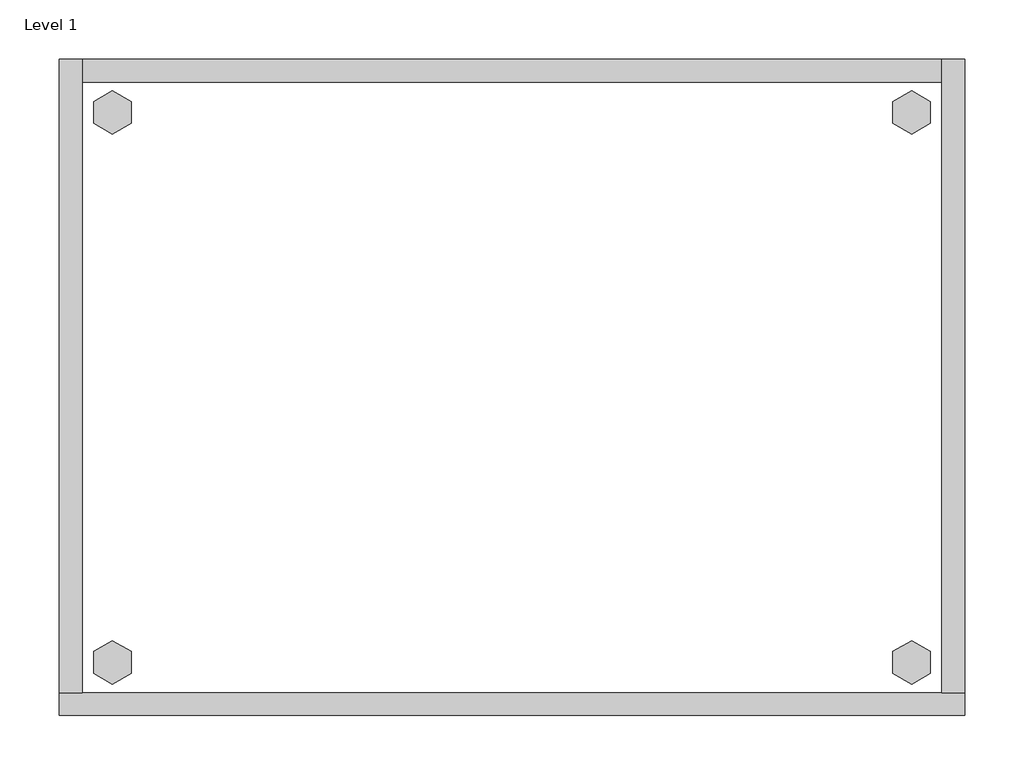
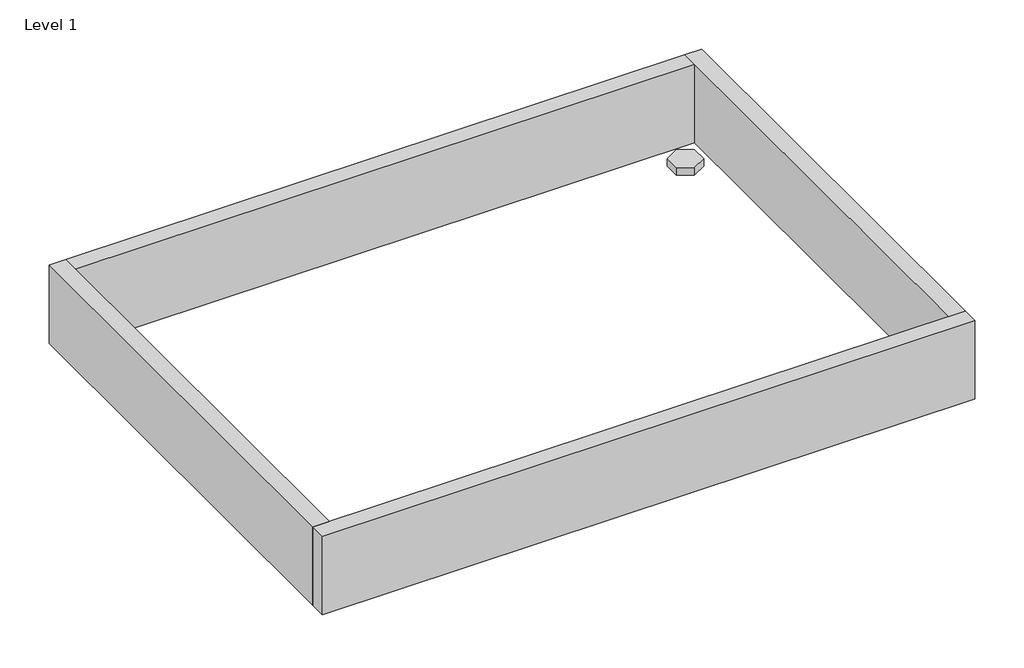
# One storey, incomplete: 1 furniture element.
"""IFC4 building model written with IfcOpenShell, lengths in millimetres."""

import ifcopenshell
import ifcopenshell.guid

model = None  # the IFC model being written
_history = None  # IfcOwnerHistory: only IFC2X3 demands one
_inside = {}  # id of a spatial element -> (the spatial element, [elements in it])
_under = {}  # id of a project, library or spatial element -> (it, [spatial elements below it])
_declared = {}  # id of a project -> (the project, [libraries it declares])
_typed = {}  # id of a type object -> (the type object, [elements of that type])
_made_of = {}  # id of a material, layer set ... -> (it, [elements and type objects made of it])


def new_model(schema):
    """Start an empty IFC model of exactly this schema.

    Asked for "IFC4X3", IfcOpenShell would pick the latest addendum, in which some entities
    have other attributes; the version numbers below select the first issue.
    IFC2X3 requires an IfcOwnerHistory on every rooted entity: one is made here for all.
    """
    global model, _history
    if schema == "IFC4X3":
        model = ifcopenshell.file(schema_version=(4, 3, 0, 0))
    else:
        model = ifcopenshell.file(schema=schema)
    _inside.clear()
    _under.clear()
    _declared.clear()
    _typed.clear()
    _made_of.clear()
    _history = None
    if model.schema == "IFC2X3":
        org = make("IfcOrganization", Name="unknown")
        user = make(
            "IfcPersonAndOrganization",
            ThePerson=make("IfcPerson", FamilyName="unknown"),
            TheOrganization=org,
        )
        app = make(
            "IfcApplication",
            ApplicationDeveloper=org,
            Version="unknown",
            ApplicationFullName="unknown",
            ApplicationIdentifier="unknown",
        )
        _history = make(
            "IfcOwnerHistory",
            OwningUser=user,
            OwningApplication=app,
            ChangeAction="ADDED",
            CreationDate=0,
        )
    return model


def make(cls, **values):
    """One entity of the class cls with the attributes given. An attribute that is None is left unset."""
    return model.create_entity(
        cls, **{name: value for name, value in values.items() if value is not None}
    )


def rooted(cls, **values):
    """An entity with a GlobalId (a new one), such as an element, a storey or a relation."""
    return make(cls, GlobalId=ifcopenshell.guid.new(), OwnerHistory=_history, **values)


def si_unit(unit_type, name, prefix=None):
    """IfcSIUnit, for example si_unit("LENGTHUNIT", "METRE", prefix="MILLI")."""
    return make("IfcSIUnit", UnitType=unit_type, Prefix=prefix, Name=name)


def assignment(units):
    """IfcUnitAssignment: the units of a project."""
    return None if units is None else make("IfcUnitAssignment", Units=units)


def point(xyz):
    """IfcCartesianPoint."""
    return None if xyz is None else make("IfcCartesianPoint", Coordinates=xyz)


def direction(xyz):
    """IfcDirection."""
    return None if xyz is None else make("IfcDirection", DirectionRatios=xyz)


def frame(location, z_axis=None, x_axis=None):
    """IfcAxis2Placement3D, a coordinate frame: its origin and axes. An axis left out is left unset."""
    return make(
        "IfcAxis2Placement3D",
        Location=point(location),
        Axis=direction(z_axis),
        RefDirection=direction(x_axis),
    )


def origin():
    """The frame at (0, 0, 0) with its axes left unset."""
    return frame((0.0, 0.0, 0.0))


def origin_with_axes():
    """The frame at (0, 0, 0) with the z axis (0, 0, 1) and the x axis (1, 0, 0) written out."""
    return frame((0.0, 0.0, 0.0), z_axis=(0.0, 0.0, 1.0), x_axis=(1.0, 0.0, 0.0))


def place(relative_to, where):
    """IfcLocalPlacement: puts the frame where relative to a parent placement (None: the world)."""
    return make(
        "IfcLocalPlacement", PlacementRelTo=relative_to, RelativePlacement=where
    )


def context(
    kind, dimensions, precision=None, world=None, true_north=None, identifier=None
):
    """IfcGeometricRepresentationContext, for example the 3D "Model" context."""
    return make(
        "IfcGeometricRepresentationContext",
        ContextIdentifier=identifier,
        ContextType=kind,
        CoordinateSpaceDimension=dimensions,
        Precision=precision,
        WorldCoordinateSystem=world,
        TrueNorth=true_north,
    )


def project(units=None, contexts=None):
    """IfcProject with its units and contexts."""
    return rooted(
        "IfcProject",
        Name="project",
        RepresentationContexts=contexts,
        UnitsInContext=assignment(units),
    )


def spatial(cls, under=None, at=None, **own):
    """A site, building, storey or space (cls), placed at a placement, below another one or the project."""
    s = rooted(cls, ObjectPlacement=at, **own)
    if under is not None:
        _under.setdefault(under.id(), (under, []))[1].append(s)
    return s


def polyline(points):
    """IfcPolyline through the points."""
    return make("IfcPolyline", Points=[point(p) for p in points])


def outline(outer, holes=None, kind="AREA"):
    """IfcArbitraryClosedProfileDef: a profile drawn as a closed curve; with holes, ...WithVoids."""
    if holes is None:
        return make("IfcArbitraryClosedProfileDef", ProfileType=kind, OuterCurve=outer)
    return make(
        "IfcArbitraryProfileDefWithVoids",
        ProfileType=kind,
        OuterCurve=outer,
        InnerCurves=holes,
    )


def extrude(swept, where, along, depth):
    """IfcExtrudedAreaSolid: the profile swept, set in the frame where, extruded along a direction by depth."""
    return make(
        "IfcExtrudedAreaSolid",
        SweptArea=swept,
        Position=where,
        ExtrudedDirection=direction(along),
        Depth=depth,
    )


def shape(context_of_items, identifier, shape_type, items):
    """IfcShapeRepresentation: the items that make up one representation, for example the "Body"."""
    return make(
        "IfcShapeRepresentation",
        ContextOfItems=context_of_items,
        RepresentationIdentifier=identifier,
        RepresentationType=shape_type,
        Items=items,
    )


def source(mapping_origin, context_of_items, identifier, shape_type, items):
    """IfcRepresentationMap: a shape defined once, which mapped items show again and again."""
    return make(
        "IfcRepresentationMap",
        MappingOrigin=mapping_origin,
        MappedRepresentation=shape(context_of_items, identifier, shape_type, items),
    )


def transform(
    local_origin,
    x_axis=None,
    y_axis=None,
    z_axis=None,
    scale=None,
    scale2=None,
    scale3=None,
    uniform=True,
):
    """IfcCartesianTransformationOperator3D, or its non-uniform kind. x_axis, y_axis, z_axis: its Axis1, 2, 3."""
    if uniform:
        return make(
            "IfcCartesianTransformationOperator3D",
            Axis1=direction(x_axis),
            Axis2=direction(y_axis),
            LocalOrigin=point(local_origin),
            Scale=scale,
            Axis3=direction(z_axis),
        )
    return make(
        "IfcCartesianTransformationOperator3DnonUniform",
        Axis1=direction(x_axis),
        Axis2=direction(y_axis),
        LocalOrigin=point(local_origin),
        Scale=scale,
        Axis3=direction(z_axis),
        Scale2=scale2,
        Scale3=scale3,
    )


def mapped(mapping_source, mapping_target):
    """IfcMappedItem: shows the shape of a source again, moved by a transform."""
    return make(
        "IfcMappedItem", MappingSource=mapping_source, MappingTarget=mapping_target
    )


def made_of(thing, what):
    """Note that an element or type object is made of a material, layer set ...; save() writes the relation."""
    if what is not None:
        _made_of.setdefault(what.id(), (what, []))[1].append(thing)
    return thing


def element(
    cls,
    number,
    at=None,
    inside=None,
    cuts=None,
    type_object=None,
    material=None,
    context=None,
    identifier="Body",
    shape_type=None,
    held_by="IfcProductDefinitionShape",
    body=None,
    shapes=None,
    **own,
):
    """One element of the class cls, such as IfcWall. Its Tag is "e" and its number.

    at: its placement. inside: the storey or other place that contains it. cuts: it is an
    opening in that element (IfcRelVoidsElement). A single representation is given by context,
    identifier, shape_type and body (its items); several are given by shapes. held_by: the class
    of the entity that holds the representations. save() writes the other relations.
    """
    e = rooted(cls, Tag="e%d" % number, ObjectPlacement=at, **own)
    if body is not None:
        shapes = [shape(context, identifier, shape_type, body)]
    if shapes is not None:
        e.Representation = make(held_by, Representations=shapes)
    if inside is not None:
        _inside.setdefault(inside.id(), (inside, []))[1].append(e)
    if cuts is not None:
        rooted(
            "IfcRelVoidsElement", RelatingBuildingElement=cuts, RelatedOpeningElement=e
        )
    if type_object is not None:
        _typed.setdefault(type_object.id(), (type_object, []))[1].append(e)
    return made_of(e, material)


def aggregate(whole, parts):
    """IfcRelAggregates: a whole, such as a stair, and the parts it consists of."""
    return rooted("IfcRelAggregates", RelatingObject=whole, RelatedObjects=parts)


def save(model, path):
    """Write the relations noted so far, then the file.

    IfcRelAggregates (storeys below a building ...), IfcRelContainedInSpatialStructure (elements
    in a storey), IfcRelDefinesByType, IfcRelAssociatesMaterial and IfcRelDeclares: one each for
    every whole, place, type object, material and project.
    """
    for whole, parts in _under.values():
        aggregate(whole, parts)
    for where, things in _inside.values():
        rooted(
            "IfcRelContainedInSpatialStructure",
            RelatedElements=things,
            RelatingStructure=where,
        )
    for kind, things in _typed.values():
        rooted("IfcRelDefinesByType", RelatedObjects=things, RelatingType=kind)
    for what, things in _made_of.values():
        rooted("IfcRelAssociatesMaterial", RelatedObjects=things, RelatingMaterial=what)
    for by, libraries in _declared.values():
        rooted("IfcRelDeclares", RelatingContext=by, RelatedDefinitions=libraries)
    model.write(path)


def furniture_3020c5eb(model_context):
    return source(origin(), model_context, "Body", "SweptSolid", [
        extrude(outline(polyline([(701.3735422, -498.8179), (717.3214, -489.6104), (733.2692578, -498.8179), (733.2692578, -517.2329), (717.3214, -526.4404), (701.3735422, -517.2329), (701.3735422, -498.8179)])), origin_with_axes(), (0.0, 0.0, 1.0), 9.144),
        extrude(outline(polyline([(701.3735422, -35.4711), (717.3214, -26.2636), (733.2692578, -35.4711), (733.2692578, -53.8861), (717.3214, -63.0936), (701.3735422, -53.8861), (701.3735422, -35.4711)])), origin_with_axes(), (0.0, 0.0, 1.0), 9.144),
        extrude(outline(polyline([(28.7307422, -498.8179), (44.6786, -489.6104), (60.6264578, -498.8179), (60.6264578, -517.2329), (44.6786, -526.4404), (28.7307422, -517.2329), (28.7307422, -498.8179)])), origin_with_axes(), (0.0, 0.0, 1.0), 9.144),
        extrude(outline(polyline([(28.7307422, -35.4711), (44.6786, -26.2636), (60.6264578, -35.4711), (60.6264578, -53.8861), (44.6786, -63.0936), (28.7307422, -53.8861), (28.7307422, -35.4711)])), origin_with_axes(), (0.0, 0.0, 1.0), 9.144),
        extrude(outline(polyline([(19.304, 0.0), (19.304, -533.4), (0.0, -533.4), (0.0, 0.0), (19.304, 0.0)])), frame((0.0, 0.0, 4.699), z_axis=(0.0, 0.0, 1.0), x_axis=(1.0, 0.0, 0.0)), (0.0, 0.0, 1.0), 96.901),
        extrude(outline(polyline([(762.0, 0.0), (762.0, -533.4), (742.696, -533.4), (742.696, 0.0), (762.0, 0.0)])), frame((0.0, 0.0, 4.699), z_axis=(0.0, 0.0, 1.0), x_axis=(1.0, 0.0, 0.0)), (0.0, 0.0, 1.0), 96.901),
        extrude(outline(polyline([(742.696, -19.304), (19.304, -19.304), (19.304, 0.0), (742.696, 0.0), (742.696, -19.304)])), frame((0.0, 0.0, 4.699), z_axis=(0.0, 0.0, 1.0), x_axis=(1.0, 0.0, 0.0)), (0.0, 0.0, 1.0), 96.901),
        extrude(outline(polyline([(762.0, -533.4), (762.0, -552.704), (0.0, -552.704), (0.0, -533.4), (762.0, -533.4)])), frame((0.0, 0.0, 4.699), z_axis=(0.0, 0.0, 1.0), x_axis=(1.0, 0.0, 0.0)), (0.0, 0.0, 1.0), 96.901),
    ])


model = new_model("IFC4")

# Units and contexts
model_context = context("Model", 3, world=origin())
ifc_project = project(units=[si_unit("LENGTHUNIT", "METRE", prefix="MILLI")], contexts=[model_context])

# Site, building, storey
site = spatial("IfcSite", under=ifc_project)
building = spatial("IfcBuilding", under=site)
storey = spatial("IfcBuildingStorey", under=building, Name="Level 1", Elevation=0.0)

# Furniture
placement = place(None, origin())
furniture_shape = furniture_3020c5eb(model_context)
element("IfcFurniture", 1, ObjectType="HermanMiller_Mora_CH250_PlinthBaseFinished : Flush on Both/Inline HPL 24D 30W", at=placement, inside=storey, context=model_context, shape_type="MappedRepresentation", body=[
    mapped(furniture_shape, transform((0.0, 0.0, 0.0), x_axis=(1.0, 0.0, 0.0), y_axis=(0.0, 1.0, 0.0), z_axis=(0.0, 0.0, 1.0))),
])

save(model, "model.ifc")
